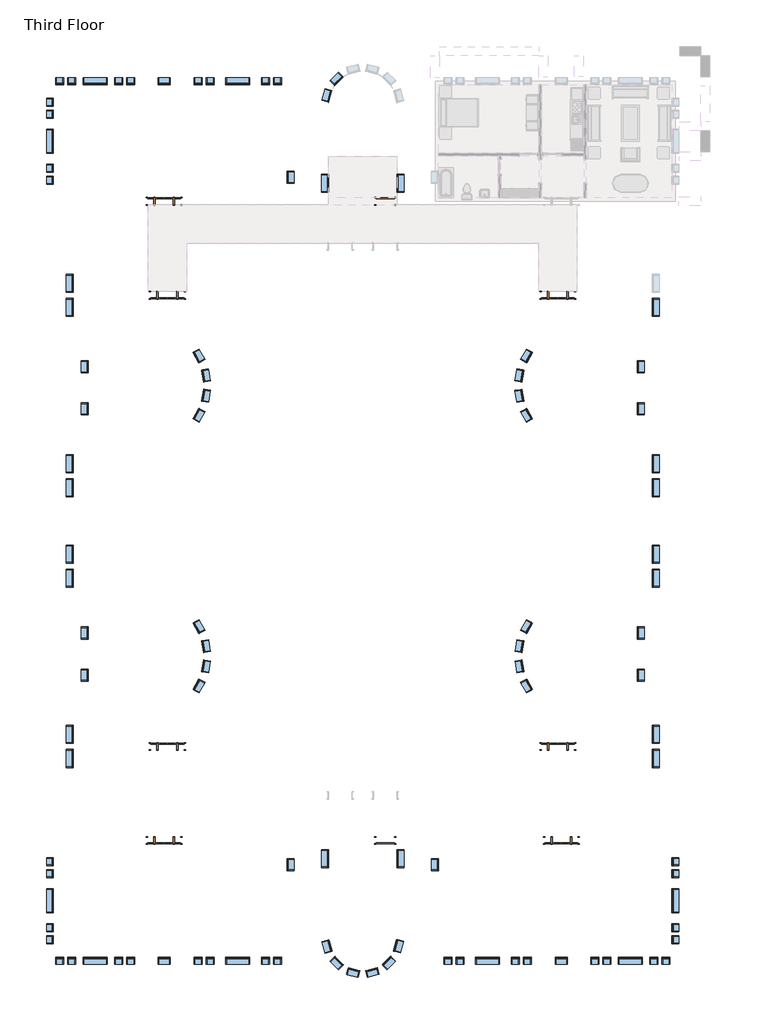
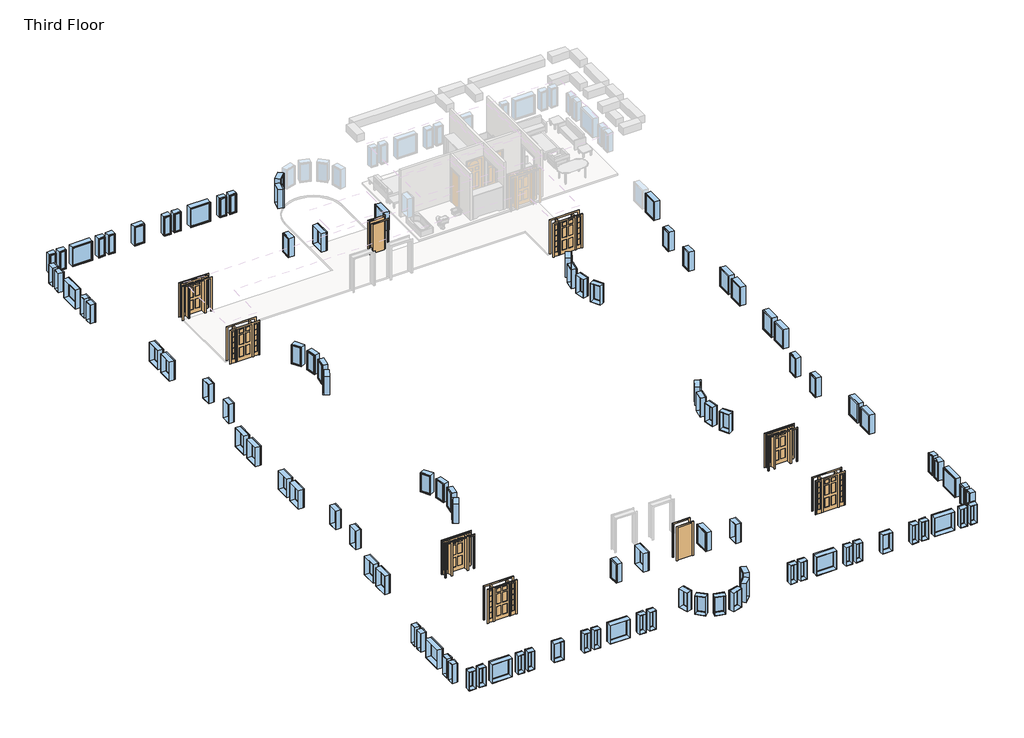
# One storey, part 1 of 2: 102 windows, 9 doors.
"""IFC4 building model written with IfcOpenShell, lengths in millimetres."""

from ifc_helpers import new_model, si_unit, origin, place, context, project, spatial, transform, mapped, element, save
from components import door_632be17d, door_cc5399a4, door_dba5aa2e, door_ffdb1193, window_da97879f, window_d61ef850, window_60baf983, window_ed80354a, window_15c49d37, window_0e2fc6ce, window_6eb97611, window_d89bf842

model = new_model("IFC4")

# Units and contexts
model_context = context("Model", 3, world=origin())
ifc_project = project(units=[si_unit("LENGTHUNIT", "METRE", prefix="MILLI")], contexts=[model_context])

# Site, building, storey
site = spatial("IfcSite", under=ifc_project)
building = spatial("IfcBuilding", under=site)
storey = spatial("IfcBuildingStorey", under=building, Name="Third Floor", Elevation=6096.0)

# Doors
placement = place(None, origin())
door_shape = door_632be17d(model_context)
element("IfcDoor", 1, ObjectType="Single-Flush : 36\" x 84\"", at=placement, inside=storey, context=model_context, shape_type="MappedRepresentation", body=[
    mapped(door_shape, transform((-13919.1714563, 4350.2316867, 6096.0), x_axis=(1.0, 0.0, 0.0), y_axis=(0.0, 1.0, 0.0), z_axis=(0.0, 0.0, 1.0))),
])
door_2_shape = door_cc5399a4(model_context)
element("IfcDoor", 2, ObjectType="Single-Flush : 36\" x 84\"", at=placement, inside=storey, context=model_context, shape_type="MappedRepresentation", body=[
    mapped(door_2_shape, transform((-13919.1714563, -28041.1183133, 6096.0), x_axis=(1.0, 0.0, 0.0), y_axis=(0.0, 1.0, 0.0), z_axis=(0.0, 0.0, 1.0))),
])
door_3_shape = door_dba5aa2e(model_context)
element("IfcDoor", 3, ObjectType="Single-Raised Panel with Sidelights : 36\" x 84\"", at=placement, inside=storey, context=model_context, shape_type="MappedRepresentation", body=[
    mapped(door_3_shape, transform((-24968.1714563, -415.4433133, 6096.0), x_axis=(1.0, 0.0, 0.0), y_axis=(0.0, 1.0, 0.0), z_axis=(0.0, 0.0, 1.0))),
])
element("IfcDoor", 4, ObjectType="Single-Raised Panel with Sidelights : 36\" x 84\"", at=placement, inside=storey, context=model_context, shape_type="MappedRepresentation", body=[
    mapped(door_3_shape, transform((-5156.1714563, -23275.4433133, 6096.0), x_axis=(-1.0, 0.0, 0.0), y_axis=(0.0, -1.0, 0.0), z_axis=(0.0, 0.0, 1.0))),
])
element("IfcDoor", 5, ObjectType="Single-Raised Panel with Sidelights : 36\" x 84\"", at=placement, inside=storey, context=model_context, shape_type="MappedRepresentation", body=[
    mapped(door_3_shape, transform((-25131.6839563, -28041.1183133, 6096.0), x_axis=(1.0, 0.0, 0.0), y_axis=(0.0, 1.0, 0.0), z_axis=(0.0, 0.0, 1.0))),
])
door_4_shape = door_ffdb1193(model_context)
element("IfcDoor", 6, ObjectType="Single-Raised Panel with Sidelights : 36\" x 84\"", at=placement, inside=storey, context=model_context, shape_type="MappedRepresentation", body=[
    mapped(door_4_shape, transform((-5156.1714563, -415.4433133, 6096.0), x_axis=(-1.0, 0.0, 0.0), y_axis=(0.0, -1.0, 0.0), z_axis=(0.0, 0.0, 1.0))),
])
element("IfcDoor", 7, ObjectType="Single-Raised Panel with Sidelights : 36\" x 84\"", at=placement, inside=storey, context=model_context, shape_type="MappedRepresentation", body=[
    mapped(door_4_shape, transform((-25131.6839563, 4350.2316867, 6096.0), x_axis=(1.0, 0.0, 0.0), y_axis=(0.0, 1.0, 0.0), z_axis=(0.0, 0.0, 1.0))),
])
element("IfcDoor", 8, ObjectType="Single-Raised Panel with Sidelights : 36\" x 84\"", at=placement, inside=storey, context=model_context, shape_type="MappedRepresentation", body=[
    mapped(door_4_shape, transform((-4992.6589563, -28041.1183133, 6096.0), x_axis=(-1.0, 0.0, 0.0), y_axis=(0.0, -1.0, 0.0), z_axis=(0.0, 0.0, 1.0))),
])
element("IfcDoor", 9, ObjectType="Single-Raised Panel with Sidelights : 36\" x 84\"", at=placement, inside=storey, context=model_context, shape_type="MappedRepresentation", body=[
    mapped(door_4_shape, transform((-24968.1714563, -23275.4433133, 6096.0), x_axis=(1.0, 0.0, 0.0), y_axis=(0.0, 1.0, 0.0), z_axis=(0.0, 0.0, 1.0))),
])

# Windows
window_shape = window_da97879f(model_context)
element("IfcWindow", 10, ObjectType="Fixed : 16\" x 48\"", at=placement, inside=storey, context=model_context, shape_type="MappedRepresentation", body=[
    mapped(window_shape, transform((-23442.5839563, 10446.2316867, 6096.0), x_axis=(-1.0, 0.0, 0.0), y_axis=(0.0, -1.0, 0.0), z_axis=(0.0, 0.0, 1.0))),
])
element("IfcWindow", 11, ObjectType="Fixed : 16\" x 48\"", at=placement, inside=storey, context=model_context, shape_type="MappedRepresentation", body=[
    mapped(window_shape, transform((-22832.9839563, 10446.2316867, 6096.0), x_axis=(-1.0, 0.0, 0.0), y_axis=(0.0, -1.0, 0.0), z_axis=(0.0, 0.0, 1.0))),
])
element("IfcWindow", 12, ObjectType="Fixed : 16\" x 48\"", at=placement, inside=storey, context=model_context, shape_type="MappedRepresentation", body=[
    mapped(window_shape, transform((-30478.3839563, 10446.2316867, 6096.0), x_axis=(-1.0, 0.0, 0.0), y_axis=(0.0, -1.0, 0.0), z_axis=(0.0, 0.0, 1.0))),
])
element("IfcWindow", 13, ObjectType="Fixed : 16\" x 48\"", at=placement, inside=storey, context=model_context, shape_type="MappedRepresentation", body=[
    mapped(window_shape, transform((-29868.7839563, 10446.2316867, 6096.0), x_axis=(-1.0, 0.0, 0.0), y_axis=(0.0, -1.0, 0.0), z_axis=(0.0, 0.0, 1.0))),
])
element("IfcWindow", 14, ObjectType="Fixed : 16\" x 48\"", at=placement, inside=storey, context=model_context, shape_type="MappedRepresentation", body=[
    mapped(window_shape, transform((-30922.8839563, 5378.9316867, 6096.0), x_axis=(0.0, -1.0, 0.0), y_axis=(1.0, 0.0, 0.0), z_axis=(0.0, 0.0, 1.0))),
])
element("IfcWindow", 15, ObjectType="Fixed : 16\" x 48\"", at=placement, inside=storey, context=model_context, shape_type="MappedRepresentation", body=[
    mapped(window_shape, transform((-30922.8839563, 5988.5316867, 6096.0), x_axis=(0.0, -1.0, 0.0), y_axis=(1.0, 0.0, 0.0), z_axis=(0.0, 0.0, 1.0))),
])
element("IfcWindow", 16, ObjectType="Fixed : 16\" x 48\"", at=placement, inside=storey, context=model_context, shape_type="MappedRepresentation", body=[
    mapped(window_shape, transform((-6681.7589563, -34137.1183133, 6096.0), x_axis=(1.0, 0.0, 0.0), y_axis=(0.0, 1.0, 0.0), z_axis=(0.0, 0.0, 1.0))),
])
element("IfcWindow", 17, ObjectType="Fixed : 16\" x 48\"", at=placement, inside=storey, context=model_context, shape_type="MappedRepresentation", body=[
    mapped(window_shape, transform((-7291.3589563, -34137.1183133, 6096.0), x_axis=(1.0, 0.0, 0.0), y_axis=(0.0, 1.0, 0.0), z_axis=(0.0, 0.0, 1.0))),
])
element("IfcWindow", 18, ObjectType="Fixed : 16\" x 48\"", at=placement, inside=storey, context=model_context, shape_type="MappedRepresentation", body=[
    mapped(window_shape, transform((354.0410437, -34137.1183133, 6096.0), x_axis=(1.0, 0.0, 0.0), y_axis=(0.0, 1.0, 0.0), z_axis=(0.0, 0.0, 1.0))),
])
element("IfcWindow", 19, ObjectType="Fixed : 16\" x 48\"", at=placement, inside=storey, context=model_context, shape_type="MappedRepresentation", body=[
    mapped(window_shape, transform((-255.5589563, -34137.1183133, 6096.0), x_axis=(1.0, 0.0, 0.0), y_axis=(0.0, 1.0, 0.0), z_axis=(0.0, 0.0, 1.0))),
])
element("IfcWindow", 20, ObjectType="Fixed : 16\" x 48\"", at=placement, inside=storey, context=model_context, shape_type="MappedRepresentation", body=[
    mapped(window_shape, transform((798.5410437, -29069.8183133, 6096.0), x_axis=(0.0, 1.0, 0.0), y_axis=(-1.0, 0.0, 0.0), z_axis=(0.0, 0.0, 1.0))),
])
element("IfcWindow", 21, ObjectType="Fixed : 16\" x 48\"", at=placement, inside=storey, context=model_context, shape_type="MappedRepresentation", body=[
    mapped(window_shape, transform((798.5410437, -29679.4183133, 6096.0), x_axis=(0.0, 1.0, 0.0), y_axis=(-1.0, 0.0, 0.0), z_axis=(0.0, 0.0, 1.0))),
])
element("IfcWindow", 22, ObjectType="Fixed : 16\" x 48\"", at=placement, inside=storey, context=model_context, shape_type="MappedRepresentation", body=[
    mapped(window_shape, transform((-19353.1839563, -34137.1183133, 6096.0), x_axis=(1.0, 0.0, 0.0), y_axis=(0.0, 1.0, 0.0), z_axis=(0.0, 0.0, 1.0))),
])
element("IfcWindow", 23, ObjectType="Fixed : 16\" x 48\"", at=placement, inside=storey, context=model_context, shape_type="MappedRepresentation", body=[
    mapped(window_shape, transform((-19962.7839563, -34137.1183133, 6096.0), x_axis=(1.0, 0.0, 0.0), y_axis=(0.0, 1.0, 0.0), z_axis=(0.0, 0.0, 1.0))),
])
element("IfcWindow", 24, ObjectType="Fixed : 16\" x 48\"", at=placement, inside=storey, context=model_context, shape_type="MappedRepresentation", body=[
    mapped(window_shape, transform((-26795.3839563, -34137.1183133, 6096.0), x_axis=(1.0, 0.0, 0.0), y_axis=(0.0, 1.0, 0.0), z_axis=(0.0, 0.0, 1.0))),
])
element("IfcWindow", 25, ObjectType="Fixed : 16\" x 48\"", at=placement, inside=storey, context=model_context, shape_type="MappedRepresentation", body=[
    mapped(window_shape, transform((-27404.9839563, -34137.1183133, 6096.0), x_axis=(1.0, 0.0, 0.0), y_axis=(0.0, 1.0, 0.0), z_axis=(0.0, 0.0, 1.0))),
])
element("IfcWindow", 26, ObjectType="Fixed : 16\" x 48\"", at=placement, inside=storey, context=model_context, shape_type="MappedRepresentation", body=[
    mapped(window_shape, transform((-30922.8839563, -33108.4183133, 6096.0), x_axis=(0.0, -1.0, 0.0), y_axis=(1.0, 0.0, 0.0), z_axis=(0.0, 0.0, 1.0))),
])
element("IfcWindow", 27, ObjectType="Fixed : 16\" x 48\"", at=placement, inside=storey, context=model_context, shape_type="MappedRepresentation", body=[
    mapped(window_shape, transform((-30922.8839563, -32498.8183133, 6096.0), x_axis=(0.0, -1.0, 0.0), y_axis=(1.0, 0.0, 0.0), z_axis=(0.0, 0.0, 1.0))),
])
window_2_shape = window_d61ef850(model_context)
element("IfcWindow", 28, ObjectType="Fixed : 16\" x 48\"", at=placement, inside=storey, context=model_context, shape_type="MappedRepresentation", body=[
    mapped(window_2_shape, transform((-19353.1839563, 10446.2316867, 6096.0), x_axis=(1.0, 0.0, 0.0), y_axis=(0.0, 1.0, 0.0), z_axis=(0.0, 0.0, 1.0))),
])
element("IfcWindow", 29, ObjectType="Fixed : 16\" x 48\"", at=placement, inside=storey, context=model_context, shape_type="MappedRepresentation", body=[
    mapped(window_2_shape, transform((-19962.7839563, 10446.2316867, 6096.0), x_axis=(1.0, 0.0, 0.0), y_axis=(0.0, 1.0, 0.0), z_axis=(0.0, 0.0, 1.0))),
])
element("IfcWindow", 30, ObjectType="Fixed : 16\" x 48\"", at=placement, inside=storey, context=model_context, shape_type="MappedRepresentation", body=[
    mapped(window_2_shape, transform((-26795.3839563, 10446.2316867, 6096.0), x_axis=(1.0, 0.0, 0.0), y_axis=(0.0, 1.0, 0.0), z_axis=(0.0, 0.0, 1.0))),
])
element("IfcWindow", 31, ObjectType="Fixed : 16\" x 48\"", at=placement, inside=storey, context=model_context, shape_type="MappedRepresentation", body=[
    mapped(window_2_shape, transform((-27404.9839563, 10446.2316867, 6096.0), x_axis=(1.0, 0.0, 0.0), y_axis=(0.0, 1.0, 0.0), z_axis=(0.0, 0.0, 1.0))),
])
element("IfcWindow", 32, ObjectType="Fixed : 16\" x 48\"", at=placement, inside=storey, context=model_context, shape_type="MappedRepresentation", body=[
    mapped(window_2_shape, transform((-30922.8839563, 9417.5316867, 6096.0), x_axis=(0.0, 1.0, 0.0), y_axis=(-1.0, 0.0, 0.0), z_axis=(0.0, 0.0, 1.0))),
])
element("IfcWindow", 33, ObjectType="Fixed : 16\" x 48\"", at=placement, inside=storey, context=model_context, shape_type="MappedRepresentation", body=[
    mapped(window_2_shape, transform((-30922.8839563, 8807.9316867, 6096.0), x_axis=(0.0, 1.0, 0.0), y_axis=(-1.0, 0.0, 0.0), z_axis=(0.0, 0.0, 1.0))),
])
element("IfcWindow", 34, ObjectType="Fixed : 16\" x 48\"", at=placement, inside=storey, context=model_context, shape_type="MappedRepresentation", body=[
    mapped(window_2_shape, transform((-10771.1589563, -34137.1183133, 6096.0), x_axis=(-1.0, 0.0, 0.0), y_axis=(0.0, -1.0, 0.0), z_axis=(0.0, 0.0, 1.0))),
])
element("IfcWindow", 35, ObjectType="Fixed : 16\" x 48\"", at=placement, inside=storey, context=model_context, shape_type="MappedRepresentation", body=[
    mapped(window_2_shape, transform((-10161.5589563, -34137.1183133, 6096.0), x_axis=(-1.0, 0.0, 0.0), y_axis=(0.0, -1.0, 0.0), z_axis=(0.0, 0.0, 1.0))),
])
element("IfcWindow", 36, ObjectType="Fixed : 16\" x 48\"", at=placement, inside=storey, context=model_context, shape_type="MappedRepresentation", body=[
    mapped(window_2_shape, transform((-3328.9589563, -34137.1183133, 6096.0), x_axis=(-1.0, 0.0, 0.0), y_axis=(0.0, -1.0, 0.0), z_axis=(0.0, 0.0, 1.0))),
])
element("IfcWindow", 37, ObjectType="Fixed : 16\" x 48\"", at=placement, inside=storey, context=model_context, shape_type="MappedRepresentation", body=[
    mapped(window_2_shape, transform((-2719.3589563, -34137.1183133, 6096.0), x_axis=(-1.0, 0.0, 0.0), y_axis=(0.0, -1.0, 0.0), z_axis=(0.0, 0.0, 1.0))),
])
element("IfcWindow", 38, ObjectType="Fixed : 16\" x 48\"", at=placement, inside=storey, context=model_context, shape_type="MappedRepresentation", body=[
    mapped(window_2_shape, transform((798.5410437, -33108.4183133, 6096.0), x_axis=(0.0, -1.0, 0.0), y_axis=(1.0, 0.0, 0.0), z_axis=(0.0, 0.0, 1.0))),
])
element("IfcWindow", 39, ObjectType="Fixed : 16\" x 48\"", at=placement, inside=storey, context=model_context, shape_type="MappedRepresentation", body=[
    mapped(window_2_shape, transform((798.5410437, -32498.8183133, 6096.0), x_axis=(0.0, -1.0, 0.0), y_axis=(1.0, 0.0, 0.0), z_axis=(0.0, 0.0, 1.0))),
])
element("IfcWindow", 40, ObjectType="Fixed : 16\" x 48\"", at=placement, inside=storey, context=model_context, shape_type="MappedRepresentation", body=[
    mapped(window_2_shape, transform((-23442.5839563, -34137.1183133, 6096.0), x_axis=(-1.0, 0.0, 0.0), y_axis=(0.0, -1.0, 0.0), z_axis=(0.0, 0.0, 1.0))),
])
element("IfcWindow", 41, ObjectType="Fixed : 16\" x 48\"", at=placement, inside=storey, context=model_context, shape_type="MappedRepresentation", body=[
    mapped(window_2_shape, transform((-22832.9839563, -34137.1183133, 6096.0), x_axis=(-1.0, 0.0, 0.0), y_axis=(0.0, -1.0, 0.0), z_axis=(0.0, 0.0, 1.0))),
])
element("IfcWindow", 42, ObjectType="Fixed : 16\" x 48\"", at=placement, inside=storey, context=model_context, shape_type="MappedRepresentation", body=[
    mapped(window_2_shape, transform((-30478.3839563, -34137.1183133, 6096.0), x_axis=(-1.0, 0.0, 0.0), y_axis=(0.0, -1.0, 0.0), z_axis=(0.0, 0.0, 1.0))),
])
element("IfcWindow", 43, ObjectType="Fixed : 16\" x 48\"", at=placement, inside=storey, context=model_context, shape_type="MappedRepresentation", body=[
    mapped(window_2_shape, transform((-29868.7839563, -34137.1183133, 6096.0), x_axis=(-1.0, 0.0, 0.0), y_axis=(0.0, -1.0, 0.0), z_axis=(0.0, 0.0, 1.0))),
])
element("IfcWindow", 44, ObjectType="Fixed : 16\" x 48\"", at=placement, inside=storey, context=model_context, shape_type="MappedRepresentation", body=[
    mapped(window_2_shape, transform((-30922.8839563, -29069.8183133, 6096.0), x_axis=(0.0, 1.0, 0.0), y_axis=(-1.0, 0.0, 0.0), z_axis=(0.0, 0.0, 1.0))),
])
element("IfcWindow", 45, ObjectType="Fixed : 16\" x 48\"", at=placement, inside=storey, context=model_context, shape_type="MappedRepresentation", body=[
    mapped(window_2_shape, transform((-30922.8839563, -29679.4183133, 6096.0), x_axis=(0.0, 1.0, 0.0), y_axis=(-1.0, 0.0, 0.0), z_axis=(0.0, 0.0, 1.0))),
])
window_3_shape = window_60baf983(model_context)
element("IfcWindow", 46, ObjectType="Fixed : 24\" x 48\"", at=placement, inside=storey, context=model_context, shape_type="MappedRepresentation", body=[
    mapped(window_3_shape, transform((-16889.064163, 9683.0417496, 6096.0), x_axis=(-0.26176149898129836, -0.9651325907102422, 0.0), y_axis=(0.9651325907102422, -0.26176149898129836, 0.0), z_axis=(0.0, 0.0, 1.0))),
])
element("IfcWindow", 47, ObjectType="Fixed : 24\" x 48\"", at=placement, inside=storey, context=model_context, shape_type="MappedRepresentation", body=[
    mapped(window_3_shape, transform((-16416.3019188, 10535.3943388, 6096.0), x_axis=(-0.7092584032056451, -0.7049485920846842, 0.0), y_axis=(0.7049485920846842, -0.7092584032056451, 0.0), z_axis=(0.0, 0.0, 1.0))),
])
element("IfcWindow", 48, ObjectType="Fixed : 24\" x 48\"", at=placement, inside=storey, context=model_context, shape_type="MappedRepresentation", body=[
    mapped(window_3_shape, transform((-6775.1467215, -3515.2965337, 6096.0), x_axis=(-0.49619108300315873, -0.8682133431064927, 0.0), y_axis=(0.8682133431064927, -0.49619108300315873, 0.0), z_axis=(0.0, 0.0, 1.0))),
])
element("IfcWindow", 49, ObjectType="Fixed : 24\" x 48\"", at=placement, inside=storey, context=model_context, shape_type="MappedRepresentation", body=[
    mapped(window_3_shape, transform((-7118.4751134, -4510.097297, 6096.0), x_axis=(-0.16973229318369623, -0.9854902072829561, 0.0), y_axis=(0.9854902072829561, -0.16973229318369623, 0.0), z_axis=(0.0, 0.0, 1.0))),
])
element("IfcWindow", 50, ObjectType="Fixed : 24\" x 48\"", at=placement, inside=storey, context=model_context, shape_type="MappedRepresentation", body=[
    mapped(window_3_shape, transform((-29159.1714563, -4071.4558133, 6096.0), x_axis=(0.0, -1.0, 0.0), y_axis=(1.0, 0.0, 0.0), z_axis=(0.0, 0.0, 1.0))),
])
element("IfcWindow", 51, ObjectType="Fixed : 24\" x 48\"", at=placement, inside=storey, context=model_context, shape_type="MappedRepresentation", body=[
    mapped(window_3_shape, transform((-29159.1714563, -6205.0558133, 6096.0), x_axis=(0.0, -1.0, 0.0), y_axis=(1.0, 0.0, 0.0), z_axis=(0.0, 0.0, 1.0))),
])
element("IfcWindow", 52, ObjectType="Fixed : 24\" x 48\"", at=placement, inside=storey, context=model_context, shape_type="MappedRepresentation", body=[
    mapped(window_3_shape, transform((-23350.7429238, -6458.7061225, 6096.0), x_axis=(0.49619108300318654, 0.8682133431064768, 0.0), y_axis=(-0.8682133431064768, 0.49619108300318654, 0.0), z_axis=(0.0, 0.0, 1.0))),
])
element("IfcWindow", 53, ObjectType="Fixed : 24\" x 48\"", at=placement, inside=storey, context=model_context, shape_type="MappedRepresentation", body=[
    mapped(window_3_shape, transform((-23007.6234621, -5464.4869495, 6096.0), x_axis=(0.16973229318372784, 0.9854902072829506, 0.0), y_axis=(-0.9854902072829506, 0.16973229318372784, 0.0), z_axis=(0.0, 0.0, 1.0))),
])
element("IfcWindow", 54, ObjectType="Fixed : 24\" x 48\"", at=placement, inside=storey, context=model_context, shape_type="MappedRepresentation", body=[
    mapped(window_3_shape, transform((-965.1714563, -19619.4308133, 6096.0), x_axis=(0.0, 1.0, 0.0), y_axis=(-1.0, 0.0, 0.0), z_axis=(0.0, 0.0, 1.0))),
])
element("IfcWindow", 55, ObjectType="Fixed : 24\" x 48\"", at=placement, inside=storey, context=model_context, shape_type="MappedRepresentation", body=[
    mapped(window_3_shape, transform((-965.1714563, -17485.8308133, 6096.0), x_axis=(0.0, 1.0, 0.0), y_axis=(-1.0, 0.0, 0.0), z_axis=(0.0, 0.0, 1.0))),
])
element("IfcWindow", 56, ObjectType="Fixed : 24\" x 48\"", at=placement, inside=storey, context=model_context, shape_type="MappedRepresentation", body=[
    mapped(window_3_shape, transform((-6773.5999888, -17232.1805042, 6096.0), x_axis=(-0.49619108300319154, -0.8682133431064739, 0.0), y_axis=(0.8682133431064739, -0.49619108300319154, 0.0), z_axis=(0.0, 0.0, 1.0))),
])
element("IfcWindow", 57, ObjectType="Fixed : 24\" x 48\"", at=placement, inside=storey, context=model_context, shape_type="MappedRepresentation", body=[
    mapped(window_3_shape, transform((-7116.7194505, -18226.3996771, 6096.0), x_axis=(-0.16973229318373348, -0.9854902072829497, 0.0), y_axis=(0.9854902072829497, -0.16973229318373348, 0.0), z_axis=(0.0, 0.0, 1.0))),
])
element("IfcWindow", 58, ObjectType="Fixed : 24\" x 48\"", at=placement, inside=storey, context=model_context, shape_type="MappedRepresentation", body=[
    mapped(window_3_shape, transform((-25093.5839563, -34137.1183133, 6096.0), x_axis=(1.0, 0.0, 0.0), y_axis=(0.0, 1.0, 0.0), z_axis=(0.0, 0.0, 1.0))),
])
element("IfcWindow", 59, ObjectType="Fixed : 24\" x 48\"", at=placement, inside=storey, context=model_context, shape_type="MappedRepresentation", body=[
    mapped(window_3_shape, transform((-18730.8839563, -29222.2183133, 6096.0), x_axis=(0.0, 1.0, 0.0), y_axis=(-1.0, 0.0, 0.0), z_axis=(0.0, 0.0, 1.0))),
])
element("IfcWindow", 60, ObjectType="Fixed : 24\" x 48\"", at=placement, inside=storey, context=model_context, shape_type="MappedRepresentation", body=[
    mapped(window_3_shape, transform((-23349.1961911, -20175.5900929, 6096.0), x_axis=(0.4961910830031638, 0.8682133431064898, 0.0), y_axis=(-0.8682133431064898, 0.4961910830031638, 0.0), z_axis=(0.0, 0.0, 1.0))),
])
element("IfcWindow", 61, ObjectType="Fixed : 24\" x 48\"", at=placement, inside=storey, context=model_context, shape_type="MappedRepresentation", body=[
    mapped(window_3_shape, transform((-23005.8677992, -19180.7893296, 6096.0), x_axis=(0.169732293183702, 0.9854902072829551, 0.0), y_axis=(-0.9854902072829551, 0.169732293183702, 0.0), z_axis=(0.0, 0.0, 1.0))),
])
window_4_shape = window_ed80354a(model_context)
element("IfcWindow", 62, ObjectType="Fixed : 24\" x 48\"", at=placement, inside=storey, context=model_context, shape_type="MappedRepresentation", body=[
    mapped(window_4_shape, transform((-965.1714563, -4071.4558133, 6096.0), x_axis=(0.0, -1.0, 0.0), y_axis=(1.0, 0.0, 0.0), z_axis=(0.0, 0.0, 1.0))),
])
element("IfcWindow", 63, ObjectType="Fixed : 24\" x 48\"", at=placement, inside=storey, context=model_context, shape_type="MappedRepresentation", body=[
    mapped(window_4_shape, transform((-965.1714563, -6205.0558133, 6096.0), x_axis=(0.0, -1.0, 0.0), y_axis=(1.0, 0.0, 0.0), z_axis=(0.0, 0.0, 1.0))),
])
element("IfcWindow", 64, ObjectType="Fixed : 24\" x 48\"", at=placement, inside=storey, context=model_context, shape_type="MappedRepresentation", body=[
    mapped(window_4_shape, transform((-6775.1467215, -6459.5900929, 6096.0), x_axis=(-0.49619108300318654, 0.8682133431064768, 0.0), y_axis=(-0.8682133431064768, -0.49619108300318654, 0.0), z_axis=(0.0, 0.0, 1.0))),
])
element("IfcWindow", 65, ObjectType="Fixed : 24\" x 48\"", at=placement, inside=storey, context=model_context, shape_type="MappedRepresentation", body=[
    mapped(window_4_shape, transform((-7118.4751134, -5464.7893296, 6096.0), x_axis=(-0.16973229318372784, 0.9854902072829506, 0.0), y_axis=(-0.9854902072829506, -0.16973229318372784, 0.0), z_axis=(0.0, 0.0, 1.0))),
])
element("IfcWindow", 66, ObjectType="Fixed : 24\" x 48\"", at=placement, inside=storey, context=model_context, shape_type="MappedRepresentation", body=[
    mapped(window_4_shape, transform((-25093.5839563, 10446.2316867, 6096.0), x_axis=(1.0, 0.0, 0.0), y_axis=(0.0, 1.0, 0.0), z_axis=(0.0, 0.0, 1.0))),
])
element("IfcWindow", 67, ObjectType="Fixed : 24\" x 48\"", at=placement, inside=storey, context=model_context, shape_type="MappedRepresentation", body=[
    mapped(window_4_shape, transform((-18730.8839563, 5531.3316867, 6096.0), x_axis=(0.0, -1.0, 0.0), y_axis=(1.0, 0.0, 0.0), z_axis=(0.0, 0.0, 1.0))),
])
element("IfcWindow", 68, ObjectType="Fixed : 24\" x 48\"", at=placement, inside=storey, context=model_context, shape_type="MappedRepresentation", body=[
    mapped(window_4_shape, transform((-23350.7429238, -3516.1805042, 6096.0), x_axis=(0.49619108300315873, -0.8682133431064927, 0.0), y_axis=(0.8682133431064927, 0.49619108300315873, 0.0), z_axis=(0.0, 0.0, 1.0))),
])
element("IfcWindow", 69, ObjectType="Fixed : 24\" x 48\"", at=placement, inside=storey, context=model_context, shape_type="MappedRepresentation", body=[
    mapped(window_4_shape, transform((-23007.6234621, -4510.3996771, 6096.0), x_axis=(0.16973229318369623, -0.9854902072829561, 0.0), y_axis=(0.9854902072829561, 0.16973229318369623, 0.0), z_axis=(0.0, 0.0, 1.0))),
])
element("IfcWindow", 70, ObjectType="Fixed : 24\" x 48\"", at=placement, inside=storey, context=model_context, shape_type="MappedRepresentation", body=[
    mapped(window_4_shape, transform((-5030.7589563, -34137.1183133, 6096.0), x_axis=(-1.0, 0.0, 0.0), y_axis=(0.0, -1.0, 0.0), z_axis=(0.0, 0.0, 1.0))),
])
element("IfcWindow", 71, ObjectType="Fixed : 24\" x 48\"", at=placement, inside=storey, context=model_context, shape_type="MappedRepresentation", body=[
    mapped(window_4_shape, transform((-11393.4589563, -29222.2183133, 6096.0), x_axis=(0.0, 1.0, 0.0), y_axis=(-1.0, 0.0, 0.0), z_axis=(0.0, 0.0, 1.0))),
])
element("IfcWindow", 72, ObjectType="Fixed : 24\" x 48\"", at=placement, inside=storey, context=model_context, shape_type="MappedRepresentation", body=[
    mapped(window_4_shape, transform((-16884.5848795, -33372.7135131, 6096.0), x_axis=(-0.26176149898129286, 0.9651325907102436, 0.0), y_axis=(-0.9651325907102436, -0.26176149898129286, 0.0), z_axis=(0.0, 0.0, 1.0))),
])
element("IfcWindow", 73, ObjectType="Fixed : 24\" x 48\"", at=placement, inside=storey, context=model_context, shape_type="MappedRepresentation", body=[
    mapped(window_4_shape, transform((-16413.0301771, -34222.9892215, 6096.0), x_axis=(-0.7092584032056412, 0.7049485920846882, 0.0), y_axis=(-0.7049485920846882, -0.7092584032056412, 0.0), z_axis=(0.0, 0.0, 1.0))),
])
element("IfcWindow", 74, ObjectType="Fixed : 24\" x 48\"", at=placement, inside=storey, context=model_context, shape_type="MappedRepresentation", body=[
    mapped(window_4_shape, transform((-15579.5139714, -34723.5722339, 6096.0), x_axis=(-0.966710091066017, 0.2558741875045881, 0.0), y_axis=(-0.2558741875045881, -0.966710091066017, 0.0), z_axis=(0.0, 0.0, 1.0))),
])
element("IfcWindow", 75, ObjectType="Fixed : 24\" x 48\"", at=placement, inside=storey, context=model_context, shape_type="MappedRepresentation", body=[
    mapped(window_4_shape, transform((-14607.3762565, -34740.3317365, 6096.0), x_axis=(-0.9651325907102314, -0.2617614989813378, 0.0), y_axis=(0.2617614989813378, -0.9651325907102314, 0.0), z_axis=(0.0, 0.0, 1.0))),
])
element("IfcWindow", 76, ObjectType="Fixed : 24\" x 48\"", at=placement, inside=storey, context=model_context, shape_type="MappedRepresentation", body=[
    mapped(window_4_shape, transform((-13757.1005482, -34268.7770341, 6096.0), x_axis=(-0.7049485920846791, -0.7092584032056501, 0.0), y_axis=(0.7092584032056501, -0.7049485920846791, 0.0), z_axis=(0.0, 0.0, 1.0))),
])
element("IfcWindow", 77, ObjectType="Fixed : 24\" x 48\"", at=placement, inside=storey, context=model_context, shape_type="MappedRepresentation", body=[
    mapped(window_4_shape, transform((-13256.5175357, -33435.2608284, 6096.0), x_axis=(-0.25587418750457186, -0.9667100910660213, 0.0), y_axis=(0.9667100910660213, -0.25587418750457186, 0.0), z_axis=(0.0, 0.0, 1.0))),
])
element("IfcWindow", 78, ObjectType="Fixed : 24\" x 48\"", at=placement, inside=storey, context=model_context, shape_type="MappedRepresentation", body=[
    mapped(window_4_shape, transform((-6773.5999888, -20174.7061225, 6096.0), x_axis=(-0.49619108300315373, 0.8682133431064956, 0.0), y_axis=(-0.8682133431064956, -0.49619108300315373, 0.0), z_axis=(0.0, 0.0, 1.0))),
])
element("IfcWindow", 79, ObjectType="Fixed : 24\" x 48\"", at=placement, inside=storey, context=model_context, shape_type="MappedRepresentation", body=[
    mapped(window_4_shape, transform((-7116.7194505, -19180.4869495, 6096.0), x_axis=(-0.1697322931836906, 0.985490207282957, 0.0), y_axis=(-0.985490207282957, -0.1697322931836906, 0.0), z_axis=(0.0, 0.0, 1.0))),
])
element("IfcWindow", 80, ObjectType="Fixed : 24\" x 48\"", at=placement, inside=storey, context=model_context, shape_type="MappedRepresentation", body=[
    mapped(window_4_shape, transform((-29159.1714563, -19619.4308133, 6096.0), x_axis=(0.0, 1.0, 0.0), y_axis=(-1.0, 0.0, 0.0), z_axis=(0.0, 0.0, 1.0))),
])
element("IfcWindow", 81, ObjectType="Fixed : 24\" x 48\"", at=placement, inside=storey, context=model_context, shape_type="MappedRepresentation", body=[
    mapped(window_4_shape, transform((-29159.1714563, -17485.8308133, 6096.0), x_axis=(0.0, 1.0, 0.0), y_axis=(-1.0, 0.0, 0.0), z_axis=(0.0, 0.0, 1.0))),
])
element("IfcWindow", 82, ObjectType="Fixed : 24\" x 48\"", at=placement, inside=storey, context=model_context, shape_type="MappedRepresentation", body=[
    mapped(window_4_shape, transform((-23349.1961911, -17231.2965337, 6096.0), x_axis=(0.4961910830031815, -0.8682133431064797, 0.0), y_axis=(0.8682133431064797, 0.4961910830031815, 0.0), z_axis=(0.0, 0.0, 1.0))),
])
element("IfcWindow", 83, ObjectType="Fixed : 24\" x 48\"", at=placement, inside=storey, context=model_context, shape_type="MappedRepresentation", body=[
    mapped(window_4_shape, transform((-23005.8677992, -18226.097297, 6096.0), x_axis=(0.16973229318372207, -0.9854902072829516, 0.0), y_axis=(0.9854902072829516, 0.16973229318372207, 0.0), z_axis=(0.0, 0.0, 1.0))),
])
window_5_shape = window_15c49d37(model_context)
element("IfcWindow", 84, ObjectType="Fixed : 36\" x 48\"", at=placement, inside=storey, context=model_context, shape_type="MappedRepresentation", body=[
    mapped(window_5_shape, transform((-16967.1714563, 5226.5316867, 6096.0), x_axis=(0.0, -1.0, 0.0), y_axis=(1.0, 0.0, 0.0), z_axis=(0.0, 0.0, 1.0))),
])
element("IfcWindow", 85, ObjectType="Fixed : 36\" x 48\"", at=placement, inside=storey, context=model_context, shape_type="MappedRepresentation", body=[
    mapped(window_5_shape, transform((-13157.1714563, 5302.7316867, 6096.0), x_axis=(0.0, 1.0, 0.0), y_axis=(-1.0, 0.0, 0.0), z_axis=(0.0, 0.0, 1.0))),
])
element("IfcWindow", 86, ObjectType="Fixed : 36\" x 48\"", at=placement, inside=storey, context=model_context, shape_type="MappedRepresentation", body=[
    mapped(window_5_shape, transform((-29921.1714563, -10207.1433133, 6096.0), x_axis=(0.0, -1.0, 0.0), y_axis=(1.0, 0.0, 0.0), z_axis=(0.0, 0.0, 1.0))),
])
element("IfcWindow", 87, ObjectType="Fixed : 36\" x 48\"", at=placement, inside=storey, context=model_context, shape_type="MappedRepresentation", body=[
    mapped(window_5_shape, transform((-29921.1714563, -8987.9433133, 6096.0), x_axis=(0.0, -1.0, 0.0), y_axis=(1.0, 0.0, 0.0), z_axis=(0.0, 0.0, 1.0))),
])
element("IfcWindow", 88, ObjectType="Fixed : 36\" x 48\"", at=placement, inside=storey, context=model_context, shape_type="MappedRepresentation", body=[
    mapped(window_5_shape, transform((-29921.1714563, 156.0566867, 6096.0), x_axis=(0.0, -1.0, 0.0), y_axis=(1.0, 0.0, 0.0), z_axis=(0.0, 0.0, 1.0))),
])
element("IfcWindow", 89, ObjectType="Fixed : 36\" x 48\"", at=placement, inside=storey, context=model_context, shape_type="MappedRepresentation", body=[
    mapped(window_5_shape, transform((-29921.1714563, -1063.1433133, 6096.0), x_axis=(0.0, -1.0, 0.0), y_axis=(1.0, 0.0, 0.0), z_axis=(0.0, 0.0, 1.0))),
])
element("IfcWindow", 90, ObjectType="Fixed : 36\" x 48\"", at=placement, inside=storey, context=model_context, shape_type="MappedRepresentation", body=[
    mapped(window_5_shape, transform((-203.1714563, -13483.7433133, 6096.0), x_axis=(0.0, 1.0, 0.0), y_axis=(-1.0, 0.0, 0.0), z_axis=(0.0, 0.0, 1.0))),
])
element("IfcWindow", 91, ObjectType="Fixed : 36\" x 48\"", at=placement, inside=storey, context=model_context, shape_type="MappedRepresentation", body=[
    mapped(window_5_shape, transform((-203.1714563, -14702.9433133, 6096.0), x_axis=(0.0, 1.0, 0.0), y_axis=(-1.0, 0.0, 0.0), z_axis=(0.0, 0.0, 1.0))),
])
element("IfcWindow", 92, ObjectType="Fixed : 36\" x 48\"", at=placement, inside=storey, context=model_context, shape_type="MappedRepresentation", body=[
    mapped(window_5_shape, transform((-203.1714563, -23846.9433133, 6096.0), x_axis=(0.0, 1.0, 0.0), y_axis=(-1.0, 0.0, 0.0), z_axis=(0.0, 0.0, 1.0))),
])
element("IfcWindow", 93, ObjectType="Fixed : 36\" x 48\"", at=placement, inside=storey, context=model_context, shape_type="MappedRepresentation", body=[
    mapped(window_5_shape, transform((-203.1714563, -22627.7433133, 6096.0), x_axis=(0.0, 1.0, 0.0), y_axis=(-1.0, 0.0, 0.0), z_axis=(0.0, 0.0, 1.0))),
])
window_6_shape = window_0e2fc6ce(model_context)
element("IfcWindow", 94, ObjectType="Fixed : 36\" x 48\"", at=placement, inside=storey, context=model_context, shape_type="MappedRepresentation", body=[
    mapped(window_6_shape, transform((-203.1714563, -10207.1433133, 6096.0), x_axis=(0.0, -1.0, 0.0), y_axis=(1.0, 0.0, 0.0), z_axis=(0.0, 0.0, 1.0))),
])
element("IfcWindow", 95, ObjectType="Fixed : 36\" x 48\"", at=placement, inside=storey, context=model_context, shape_type="MappedRepresentation", body=[
    mapped(window_6_shape, transform((-203.1714563, -8987.9433133, 6096.0), x_axis=(0.0, -1.0, 0.0), y_axis=(1.0, 0.0, 0.0), z_axis=(0.0, 0.0, 1.0))),
])
element("IfcWindow", 96, ObjectType="Fixed : 36\" x 48\"", at=placement, inside=storey, context=model_context, shape_type="MappedRepresentation", body=[
    mapped(window_6_shape, transform((-203.1714563, -1063.1433133, 6096.0), x_axis=(0.0, -1.0, 0.0), y_axis=(1.0, 0.0, 0.0), z_axis=(0.0, 0.0, 1.0))),
])
element("IfcWindow", 97, ObjectType="Fixed : 36\" x 48\"", at=placement, inside=storey, context=model_context, shape_type="MappedRepresentation", body=[
    mapped(window_6_shape, transform((-16967.1714563, -28917.4183133, 6096.0), x_axis=(0.0, 1.0, 0.0), y_axis=(-1.0, 0.0, 0.0), z_axis=(0.0, 0.0, 1.0))),
])
element("IfcWindow", 98, ObjectType="Fixed : 36\" x 48\"", at=placement, inside=storey, context=model_context, shape_type="MappedRepresentation", body=[
    mapped(window_6_shape, transform((-13157.1714563, -28993.6183133, 6096.0), x_axis=(0.0, -1.0, 0.0), y_axis=(1.0, 0.0, 0.0), z_axis=(0.0, 0.0, 1.0))),
])
element("IfcWindow", 99, ObjectType="Fixed : 36\" x 48\"", at=placement, inside=storey, context=model_context, shape_type="MappedRepresentation", body=[
    mapped(window_6_shape, transform((-29921.1714563, -13483.7433133, 6096.0), x_axis=(0.0, 1.0, 0.0), y_axis=(-1.0, 0.0, 0.0), z_axis=(0.0, 0.0, 1.0))),
])
element("IfcWindow", 100, ObjectType="Fixed : 36\" x 48\"", at=placement, inside=storey, context=model_context, shape_type="MappedRepresentation", body=[
    mapped(window_6_shape, transform((-29921.1714563, -14702.9433133, 6096.0), x_axis=(0.0, 1.0, 0.0), y_axis=(-1.0, 0.0, 0.0), z_axis=(0.0, 0.0, 1.0))),
])
element("IfcWindow", 101, ObjectType="Fixed : 36\" x 48\"", at=placement, inside=storey, context=model_context, shape_type="MappedRepresentation", body=[
    mapped(window_6_shape, transform((-29921.1714563, -23846.9433133, 6096.0), x_axis=(0.0, 1.0, 0.0), y_axis=(-1.0, 0.0, 0.0), z_axis=(0.0, 0.0, 1.0))),
])
element("IfcWindow", 102, ObjectType="Fixed : 36\" x 48\"", at=placement, inside=storey, context=model_context, shape_type="MappedRepresentation", body=[
    mapped(window_6_shape, transform((-29921.1714563, -22627.7433133, 6096.0), x_axis=(0.0, 1.0, 0.0), y_axis=(-1.0, 0.0, 0.0), z_axis=(0.0, 0.0, 1.0))),
])
window_7_shape = window_6eb97611(model_context)
element("IfcWindow", 103, ObjectType="Fixed : 48\" x 48\"", at=placement, inside=storey, context=model_context, shape_type="MappedRepresentation", body=[
    mapped(window_7_shape, transform((-21359.7839563, -34137.1183133, 6096.0), x_axis=(1.0, 0.0, 0.0), y_axis=(0.0, 1.0, 0.0), z_axis=(0.0, 0.0, 1.0))),
])
element("IfcWindow", 104, ObjectType="Fixed : 48\" x 48\"", at=placement, inside=storey, context=model_context, shape_type="MappedRepresentation", body=[
    mapped(window_7_shape, transform((-28598.7839563, -34137.1183133, 6096.0), x_axis=(1.0, 0.0, 0.0), y_axis=(0.0, 1.0, 0.0), z_axis=(0.0, 0.0, 1.0))),
])
element("IfcWindow", 105, ObjectType="Fixed : 48\" x 48\"", at=placement, inside=storey, context=model_context, shape_type="MappedRepresentation", body=[
    mapped(window_7_shape, transform((-30922.8839563, -31127.2183133, 6096.0), x_axis=(0.0, -1.0, 0.0), y_axis=(1.0, 0.0, 0.0), z_axis=(0.0, 0.0, 1.0))),
])
window_8_shape = window_d89bf842(model_context)
element("IfcWindow", 106, ObjectType="Fixed : 48\" x 48\"", at=placement, inside=storey, context=model_context, shape_type="MappedRepresentation", body=[
    mapped(window_8_shape, transform((-21359.7839563, 10446.2316867, 6096.0), x_axis=(1.0, 0.0, 0.0), y_axis=(0.0, 1.0, 0.0), z_axis=(0.0, 0.0, 1.0))),
])
element("IfcWindow", 107, ObjectType="Fixed : 48\" x 48\"", at=placement, inside=storey, context=model_context, shape_type="MappedRepresentation", body=[
    mapped(window_8_shape, transform((-28598.7839563, 10446.2316867, 6096.0), x_axis=(1.0, 0.0, 0.0), y_axis=(0.0, 1.0, 0.0), z_axis=(0.0, 0.0, 1.0))),
])
element("IfcWindow", 108, ObjectType="Fixed : 48\" x 48\"", at=placement, inside=storey, context=model_context, shape_type="MappedRepresentation", body=[
    mapped(window_8_shape, transform((-30922.8839563, 7436.3316867, 6096.0), x_axis=(0.0, 1.0, 0.0), y_axis=(-1.0, 0.0, 0.0), z_axis=(0.0, 0.0, 1.0))),
])
element("IfcWindow", 109, ObjectType="Fixed : 48\" x 48\"", at=placement, inside=storey, context=model_context, shape_type="MappedRepresentation", body=[
    mapped(window_8_shape, transform((-8764.5589563, -34137.1183133, 6096.0), x_axis=(-1.0, 0.0, 0.0), y_axis=(0.0, -1.0, 0.0), z_axis=(0.0, 0.0, 1.0))),
])
element("IfcWindow", 110, ObjectType="Fixed : 48\" x 48\"", at=placement, inside=storey, context=model_context, shape_type="MappedRepresentation", body=[
    mapped(window_8_shape, transform((-1525.5589563, -34137.1183133, 6096.0), x_axis=(-1.0, 0.0, 0.0), y_axis=(0.0, -1.0, 0.0), z_axis=(0.0, 0.0, 1.0))),
])
element("IfcWindow", 111, ObjectType="Fixed : 48\" x 48\"", at=placement, inside=storey, context=model_context, shape_type="MappedRepresentation", body=[
    mapped(window_8_shape, transform((798.5410437, -31127.2183133, 6096.0), x_axis=(0.0, -1.0, 0.0), y_axis=(1.0, 0.0, 0.0), z_axis=(0.0, 0.0, 1.0))),
])

save(model, "model.ifc")
